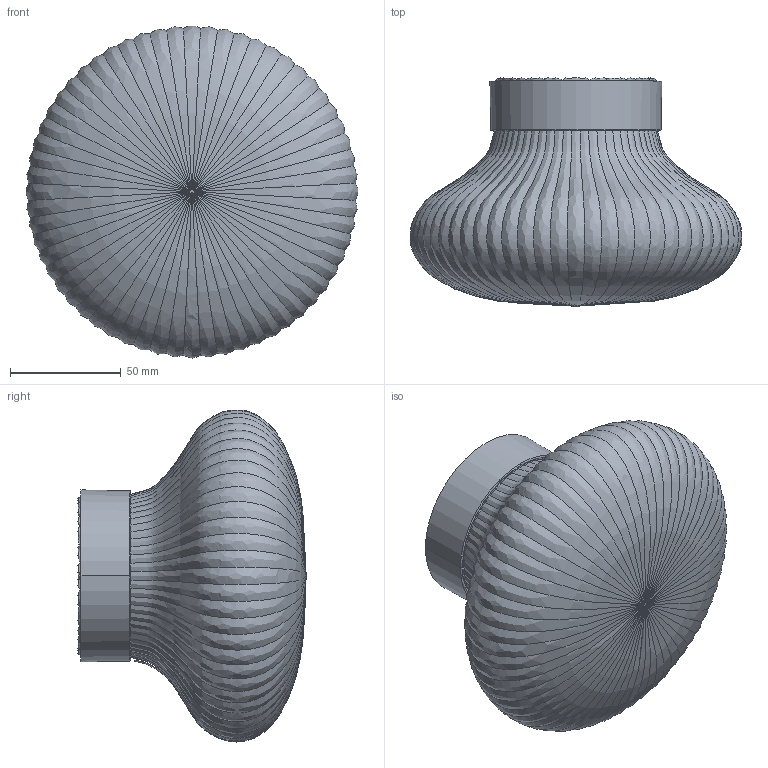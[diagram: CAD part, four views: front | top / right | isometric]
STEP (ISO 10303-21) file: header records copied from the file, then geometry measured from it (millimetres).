
FILE_DESCRIPTION(/* description */ (''),/* implementation_level */ '2;1');
FILE_NAME(/* name */ '28299_3d',/* time_stamp */ '2026-05-07T11:04:47+02:00',/* author */ (''),/* organization */ (''),/* preprocessor_version */ 'ST-DEVELOPER v19.2',/* originating_system */ 'Rhino 8.30',/* authorisation */ '');
FILE_SCHEMA (('CONFIG_CONTROL_DESIGN'));
Length unit declared in the file: millimetre
Products named in the file (1): Document
Bounding box: 149.61 x 102.98 x 149.82 mm (x, y, z)
Volume: 174617.2 mm3; surface area: 146093.1 mm2
Topology: 6 solids, 8 shells, 561 faces, 1496 edges, 959 vertices
Faces by surface type: bspline 329, cylinder 137, plane 95
Entity records: 86863 total; most frequent: CARTESIAN_POINT 75501, ORIENTED_EDGE 2950, EDGE_CURVE 1479, DIRECTION 1076, B_SPLINE_CURVE_WITH_KNOTS 1060, VERTEX_POINT 959, AXIS2_PLACEMENT_3D 654, EDGE_LOOP 635
